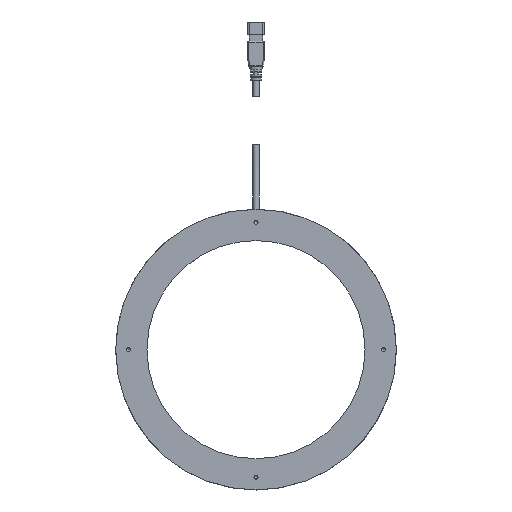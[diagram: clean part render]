
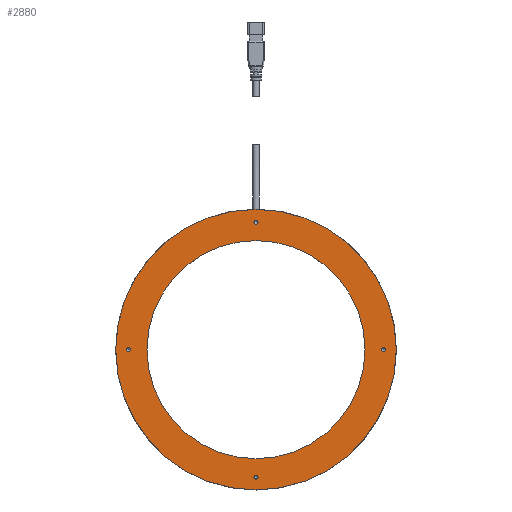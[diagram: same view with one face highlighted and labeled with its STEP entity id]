
A CAD part, top view. The second image highlights one B-rep face of the part: STEP entity #2880.
In plain terms, the highlighted planar face has unit normal (0, 0, 1) as drawn and (0, -1, 0) by its records, which use the part's own axes.
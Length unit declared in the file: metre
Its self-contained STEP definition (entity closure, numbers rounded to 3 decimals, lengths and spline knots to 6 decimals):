
#2880=ADVANCED_FACE('NONE',(#7506,#7507,#7508,#7509,#7510,#7511),#7512,.F.);
#7506=FACE_BOUND('',#14042,.T.);
#7507=FACE_BOUND('',#14043,.T.);
#7508=FACE_BOUND('',#14044,.T.);
#7509=FACE_BOUND('',#14045,.T.);
#7510=FACE_BOUND('',#14046,.T.);
#7511=FACE_OUTER_BOUND('',#14047,.T.);
#7512=PLANE('',#14048);
#14042=EDGE_LOOP('',(#31052));
#14043=EDGE_LOOP('',(#31053));
#14044=EDGE_LOOP('',(#31054));
#14045=EDGE_LOOP('',(#31055));
#14046=EDGE_LOOP('',(#31056));
#14047=EDGE_LOOP('',(#31057));
#14048=AXIS2_PLACEMENT_3D('',#31058,#31059,#31060);
#31052=ORIENTED_EDGE('',*,*,#38572,.F.);
#31053=ORIENTED_EDGE('',*,*,#38573,.F.);
#31054=ORIENTED_EDGE('',*,*,#38574,.F.);
#31055=ORIENTED_EDGE('',*,*,#38575,.F.);
#31056=ORIENTED_EDGE('',*,*,#38576,.F.);
#31057=ORIENTED_EDGE('',*,*,#37319,.T.);
#31058=CARTESIAN_POINT('',(-0.068,0.,0.0));
#31059=DIRECTION('',(-0.0,1.0,0.0));
#31060=DIRECTION('',(1.0,0.0,0.0));
#37319=EDGE_CURVE('NONE',#40680,#40680,#40681,.T.);
#38572=EDGE_CURVE('NONE',#42676,#42676,#42677,.T.);
#38573=EDGE_CURVE('NONE',#42678,#42678,#42679,.T.);
#38574=EDGE_CURVE('NONE',#42680,#42680,#42681,.T.);
#38575=EDGE_CURVE('NONE',#42682,#42682,#42683,.T.);
#38576=EDGE_CURVE('NONE',#42684,#42684,#42685,.T.);
#40680=VERTEX_POINT('',#55434);
#40681=CIRCLE('',#55435,0.0875);
#42676=VERTEX_POINT('',#57447);
#42677=CIRCLE('',#57448,0.068);
#42678=VERTEX_POINT('',#57449);
#42679=CIRCLE('',#57450,0.00125);
#42680=VERTEX_POINT('',#57451);
#42681=CIRCLE('',#57452,0.00125);
#42682=VERTEX_POINT('',#57453);
#42683=CIRCLE('',#57454,0.00125);
#42684=VERTEX_POINT('',#57455);
#42685=CIRCLE('',#57456,0.00125);
#55434=CARTESIAN_POINT('',(0.0,0.,-0.0875));
#55435=AXIS2_PLACEMENT_3D('',#58876,#58877,#58878);
#57447=CARTESIAN_POINT('',(0.0,0.,-0.068));
#57448=AXIS2_PLACEMENT_3D('',#61102,#61103,#61104);
#57449=CARTESIAN_POINT('',(0.0,0.,-0.08075));
#57450=AXIS2_PLACEMENT_3D('',#61105,#61106,#61107);
#57451=CARTESIAN_POINT('',(0.08075,0.,0.));
#57452=AXIS2_PLACEMENT_3D('',#61108,#61109,#61110);
#57453=CARTESIAN_POINT('',(0.0,0.,0.08075));
#57454=AXIS2_PLACEMENT_3D('',#61111,#61112,#61113);
#57455=CARTESIAN_POINT('',(-0.08075,0.,0.));
#57456=AXIS2_PLACEMENT_3D('',#61114,#61115,#61116);
#58876=CARTESIAN_POINT('',(0.0,0.,0.0));
#58877=DIRECTION('',(0.0,-1.0,0.0));
#58878=DIRECTION('',(0.0,0.0,-1.0));
#61102=CARTESIAN_POINT('',(0.0,0.,0.0));
#61103=DIRECTION('',(0.0,-1.0,0.0));
#61104=DIRECTION('',(0.0,0.0,-1.0));
#61105=CARTESIAN_POINT('',(0.0,0.,-0.0795));
#61106=DIRECTION('',(0.0,-1.0,0.0));
#61107=DIRECTION('',(0.0,0.0,-1.0));
#61108=CARTESIAN_POINT('',(0.0795,0.,0.));
#61109=DIRECTION('',(0.0,-1.0,0.0));
#61110=DIRECTION('',(1.0,0.0,0.));
#61111=CARTESIAN_POINT('',(-0.0,0.,0.0795));
#61112=DIRECTION('',(0.0,-1.0,0.0));
#61113=DIRECTION('',(0.0,0.0,1.0));
#61114=CARTESIAN_POINT('',(-0.0795,0.,0.));
#61115=DIRECTION('',(-0.0,-1.0,0.0));
#61116=DIRECTION('',(-1.0,0.0,0.));
